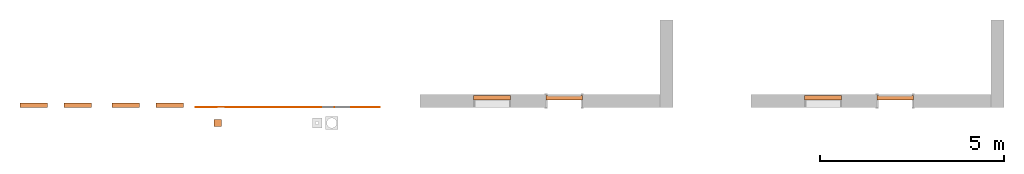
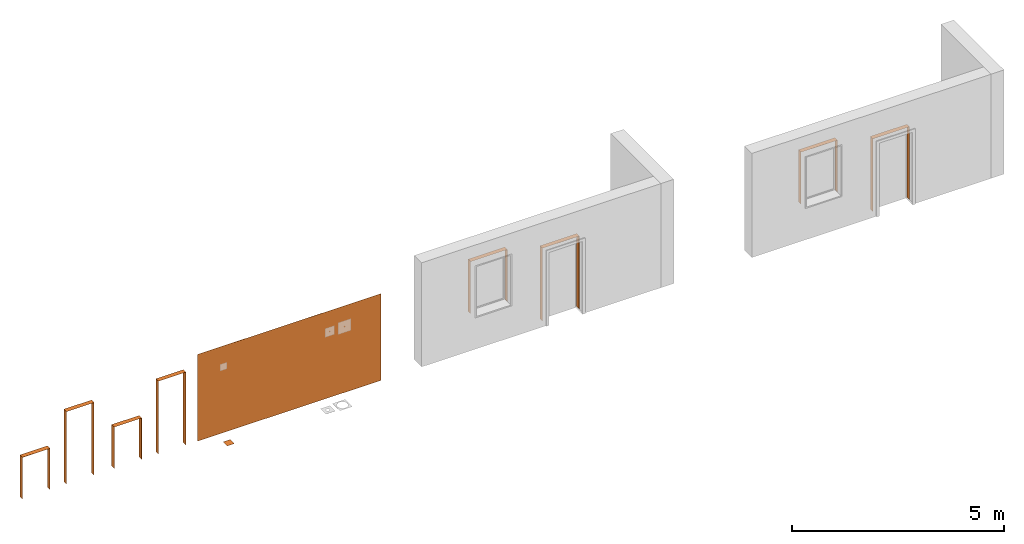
# One storey, part 2 of 3: 10 proxies.
"""IFC2X3 building model written with IfcOpenShell, lengths in millimetres."""

from ifc_helpers import new_model, entity, si_unit, converted_unit, derived_unit, direction, frame, origin, origin_2d_with_axis, place, context, subcontext, project, spatial, polyline, rectangle, outline, extrude, source, transform, mapped, material, type_object, type_shapes, element, save


model = new_model("IFC2X3")

# Units and contexts
model_context = context("Model", 3, precision=0.01, world=origin(), true_north=direction((6.12303176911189e-17, 1.0)))
body_context = subcontext(model_context, "Body", "Model", "MODEL_VIEW")
ifc_project = project(units=[si_unit("LENGTHUNIT", "METRE", prefix="MILLI"), si_unit("AREAUNIT", "SQUARE_METRE"), si_unit("VOLUMEUNIT", "CUBIC_METRE"), converted_unit("PLANEANGLEUNIT", "DEGREE", entity("IfcRatioMeasure", 0.0174532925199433), si_unit("PLANEANGLEUNIT", "RADIAN"), dimensions=[0, 0, 0, 0, 0, 0, 0]), si_unit("MASSUNIT", "GRAM", prefix="KILO"), derived_unit("MASSDENSITYUNIT", [(si_unit("MASSUNIT", "GRAM", prefix="KILO"), 1), (si_unit("LENGTHUNIT", "METRE"), -3)]), si_unit("TIMEUNIT", "SECOND"), si_unit("FREQUENCYUNIT", "HERTZ"), si_unit("THERMODYNAMICTEMPERATUREUNIT", "DEGREE_CELSIUS"), derived_unit("THERMALTRANSMITTANCEUNIT", [(si_unit("MASSUNIT", "GRAM", prefix="KILO"), 1), (si_unit("THERMODYNAMICTEMPERATUREUNIT", "KELVIN"), -1), (si_unit("TIMEUNIT", "SECOND"), -3)]), derived_unit("VOLUMETRICFLOWRATEUNIT", [(si_unit("LENGTHUNIT", "METRE"), 3), (si_unit("TIMEUNIT", "SECOND"), -1)]), si_unit("ELECTRICCURRENTUNIT", "AMPERE"), si_unit("ELECTRICVOLTAGEUNIT", "VOLT"), si_unit("POWERUNIT", "WATT"), si_unit("FORCEUNIT", "NEWTON", prefix="KILO"), si_unit("ILLUMINANCEUNIT", "LUX"), si_unit("LUMINOUSFLUXUNIT", "LUMEN"), si_unit("LUMINOUSINTENSITYUNIT", "CANDELA"), derived_unit("USERDEFINED", [(si_unit("MASSUNIT", "GRAM", prefix="KILO"), -1), (si_unit("LENGTHUNIT", "METRE"), -2), (si_unit("TIMEUNIT", "SECOND"), 3), (si_unit("LUMINOUSFLUXUNIT", "LUMEN"), 1)]), derived_unit("LINEARVELOCITYUNIT", [(si_unit("LENGTHUNIT", "METRE"), 1), (si_unit("TIMEUNIT", "SECOND"), -1)]), si_unit("PRESSUREUNIT", "PASCAL"), derived_unit("USERDEFINED", [(si_unit("LENGTHUNIT", "METRE"), -2), (si_unit("MASSUNIT", "GRAM", prefix="KILO"), 1), (si_unit("TIMEUNIT", "SECOND"), -2)])], contexts=[model_context])

# Site, building, storey
site_placement = place(None, origin())
site = spatial("IfcSite", under=ifc_project, at=site_placement, Name="Default", CompositionType="ELEMENT")
building_placement = place(site_placement, origin())
building = spatial("IfcBuilding", under=site, at=building_placement, CompositionType="ELEMENT")
storey_placement = place(building_placement, origin())
storey = spatial("IfcBuildingStorey", under=building, at=storey_placement, Name="Level 1", CompositionType="ELEMENT", Elevation=0.0)

# Proxies
ifc_material_1 = material(Name="DafaExFoilLiningFoil")
building_element_proxy_type_1 = type_object("IfcBuildingElementProxyType", Name="Window Lining", PredefinedType="NOTDEFINED", material=ifc_material_1)
shared_shape_1 = source(origin(), body_context, "Body", "SweptSolid", [
    extrude(outline(polyline([(-750.250000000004, -500.0), (749.750000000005, -500.0), (749.750000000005, -499.0), (-749.250000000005, -499.0), (-749.250000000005, 499.0), (749.750000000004, 499.0), (749.750000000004, 500.0), (-750.250000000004, 500.0), (-750.250000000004, -500.0)])), frame((500.0, 0.0, 749.750000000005), z_axis=(0.0, 1.0, 0.0), x_axis=(0.0, 0.0, -1.0)), (0.0, 0.0, 1.0), 120.0),
])
type_shapes(building_element_proxy_type_1, [shared_shape_1])
proxy_1_placement = place(storey_placement, frame((738.667400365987, 14343.9384218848, 900.0), z_axis=(0.0, 0.0, 1.0), x_axis=(-1.0, 0.0, 0.0)))
element("IfcBuildingElementProxy", 1, at=proxy_1_placement, inside=storey, type_object=building_element_proxy_type_1, material=ifc_material_1, Name="Dafa_ExFoil_Lining_Foil 2 x double adhesive-WallBased:Window Lining", ObjectType="Dafa_ExFoil_Lining_Foil 2 x double adhesive-WallBased:Window Lining", context=body_context, shape_type="MappedRepresentation", body=[
    mapped(shared_shape_1, transform((0.0, 0.0, 0.0), scale=1.0)),
])
ifc_material_2 = material(Name="DafaExFoil")
building_element_proxy_type_2 = type_object("IfcBuildingElementProxyType", Name="Standard", PredefinedType="NOTDEFINED", material=ifc_material_2)
shared_shape_2 = source(origin(), body_context, "Body", "SweptSolid", [
    extrude(rectangle(XDim=5000.0, YDim=1.00000000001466, at=origin_2d_with_axis()), origin(), (0.0, 0.0, 1.0), 2500.0),
])
type_shapes(building_element_proxy_type_2, [shared_shape_2])
proxy_2_placement = place(storey_placement, frame((-5318.83259963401, 14018.9384218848, 0.0)))
element("IfcBuildingElementProxy", 2, at=proxy_2_placement, inside=storey, type_object=building_element_proxy_type_2, material=ifc_material_2, Name="Dafa_ExFoil:Standard", ObjectType="Dafa_ExFoil:Standard", context=body_context, shape_type="MappedRepresentation", body=[
    mapped(shared_shape_2, transform((0.0, 0.0, 0.0), scale=1.0)),
])
building_element_proxy_type_3 = type_object("IfcBuildingElementProxyType", Name="Door Lining", PredefinedType="NOTDEFINED", material=ifc_material_1)
shared_shape_3 = source(origin(), body_context, "Body", "SweptSolid", [
    extrude(outline(polyline([(-1050.25, -500.0), (1049.75, -500.0), (1049.75, -499.0), (-1049.25, -499.0), (-1049.25, 499.0), (1049.75, 499.0), (1049.75, 500.0), (-1050.25, 500.0), (-1050.25, -500.0)])), frame((500.0, 0.0, 1049.75), z_axis=(0.0, 1.0, 0.0), x_axis=(0.0, 0.0, -1.0)), (0.0, 0.0, 1.0), 120.0),
])
type_shapes(building_element_proxy_type_3, [shared_shape_3])
proxy_3_placement = place(storey_placement, frame((2698.66740036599, 14343.9384218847, 0.708015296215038), z_axis=(0.0, 0.0, 1.0), x_axis=(-1.0, 0.0, 0.0)))
element("IfcBuildingElementProxy", 3, at=proxy_3_placement, inside=storey, type_object=building_element_proxy_type_3, material=ifc_material_1, Name="Dafa_ExFoil_Lining_Foil 2 x double adhesive-WallBased:Door Lining", ObjectType="Dafa_ExFoil_Lining_Foil 2 x double adhesive-WallBased:Door Lining", context=body_context, shape_type="MappedRepresentation", body=[
    mapped(shared_shape_3, transform((0.0, 0.0, 0.0), scale=1.0)),
])
ifc_material_3 = material(Name="DAFA Hitack")
building_element_proxy_type_4 = type_object("IfcBuildingElementProxyType", Name="Type 195", PredefinedType="NOTDEFINED", material=ifc_material_3)
shared_shape_4 = source(origin(), body_context, "Body", "SweptSolid", [
    extrude(rectangle(XDim=195.0, YDim=194.999999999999, at=origin_2d_with_axis()), frame((0.0, 0.0, 0.0), z_axis=(0.0, 0.0, 1.0), x_axis=(-1.0, 0.0, 0.0)), (0.0, 0.0, 1.0), 1.2),
])
type_shapes(building_element_proxy_type_4, [shared_shape_4])
proxy_4_placement = place(storey_placement, frame((-7218.83259963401, 13593.9384218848, 0.0)))
element("IfcBuildingElementProxy", 4, at=proxy_4_placement, inside=storey, type_object=building_element_proxy_type_4, material=ifc_material_3, Name="Dafa_Hi-tack_Cable_Collar:Type 195", ObjectType="Dafa_Hi-tack_Cable_Collar:Type 195", context=body_context, shape_type="MappedRepresentation", body=[
    mapped(shared_shape_4, transform((0.0, 0.0, 0.0), scale=1.0)),
])
building_element_proxy_type_5 = type_object("IfcBuildingElementProxyType", Name="Door Lining", PredefinedType="NOTDEFINED", material=ifc_material_1)
shared_shape_5 = source(origin(), body_context, "Body", "SweptSolid", [
    extrude(outline(polyline([(-1050.25000000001, -375.0), (1049.75, -375.0), (1049.75, -374.0), (-1049.25, -374.0), (-1049.25, 374.0), (1049.75, 374.0), (1049.75, 375.0), (-1050.25000000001, 375.0), (-1050.25000000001, -375.0)])), frame((0.0, 0.0, 1049.75), z_axis=(0.0, 1.0, 0.0), x_axis=(0.0, 0.0, -1.0)), (0.0, 0.0, 1.0), 120.0),
])
type_shapes(building_element_proxy_type_5, [shared_shape_5])
proxy_5_placement = place(storey_placement, frame((-8518.83259963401, 14018.9384218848, 0.0)))
element("IfcBuildingElementProxy", 5, at=proxy_5_placement, inside=storey, type_object=building_element_proxy_type_5, material=ifc_material_1, Name="Dafa_ExFoil_Lining_Foil 2 x double adhesive:Door Lining", ObjectType="Dafa_ExFoil_Lining_Foil 2 x double adhesive:Door Lining", context=body_context, shape_type="MappedRepresentation", body=[
    mapped(shared_shape_5, transform((0.0, 0.0, 0.0), scale=1.0)),
])
building_element_proxy_type_6 = type_object("IfcBuildingElementProxyType", Name="Window Lining", PredefinedType="NOTDEFINED", material=ifc_material_1)
shared_shape_6 = source(origin(), body_context, "Body", "SweptSolid", [
    extrude(outline(polyline([(-600.250000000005, -375.0), (599.750000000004, -375.0), (599.750000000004, -374.0), (-599.250000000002, -374.0), (-599.250000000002, 374.0), (599.750000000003, 374.0), (599.750000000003, 375.0), (-600.250000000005, 375.0), (-600.250000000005, -375.0)])), frame((0.0, 0.0, 599.750000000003), z_axis=(0.0, 1.0, 0.0), x_axis=(0.0, 0.0, -1.0)), (0.0, 0.0, 1.0), 120.0),
])
type_shapes(building_element_proxy_type_6, [shared_shape_6])
proxy_6_placement = place(storey_placement, frame((-9718.83259963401, 14018.9384218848, 0.0)))
element("IfcBuildingElementProxy", 6, at=proxy_6_placement, inside=storey, type_object=building_element_proxy_type_6, material=ifc_material_1, Name="Dafa_ExFoil_Lining_Foil 2 x double adhesive:Window Lining", ObjectType="Dafa_ExFoil_Lining_Foil 2 x double adhesive:Window Lining", context=body_context, shape_type="MappedRepresentation", body=[
    mapped(shared_shape_6, transform((0.0, 0.0, 0.0), scale=1.0)),
])
building_element_proxy_type_7 = type_object("IfcBuildingElementProxyType", Name="Door Lining", PredefinedType="NOTDEFINED", material=ifc_material_1)
shared_shape_7 = source(origin(), body_context, "Body", "SweptSolid", [
    extrude(outline(polyline([(-1050.25000000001, -375.0), (1049.75, -375.0), (1049.75, -374.0), (-1049.25, -374.0), (-1049.25, 374.0), (1049.75, 374.0), (1049.75, 375.0), (-1050.25000000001, 375.0), (-1050.25000000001, -375.0)])), frame((0.0, 0.0, 1049.75), z_axis=(0.0, 1.0, 0.0), x_axis=(0.0, 0.0, -1.0)), (0.0, 0.0, 1.0), 120.0),
])
type_shapes(building_element_proxy_type_7, [shared_shape_7])
proxy_7_placement = place(storey_placement, frame((-11018.832599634, 14018.9384218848, 0.0)))
element("IfcBuildingElementProxy", 7, at=proxy_7_placement, inside=storey, type_object=building_element_proxy_type_7, material=ifc_material_1, Name="Dafa_ExFoil_Lining_Foil double adhesive and butyl rubber:Door Lining", ObjectType="Dafa_ExFoil_Lining_Foil double adhesive and butyl rubber:Door Lining", context=body_context, shape_type="MappedRepresentation", body=[
    mapped(shared_shape_7, transform((0.0, 0.0, 0.0), scale=1.0)),
])
building_element_proxy_type_8 = type_object("IfcBuildingElementProxyType", Name="Window Lining", PredefinedType="NOTDEFINED", material=ifc_material_1)
shared_shape_8 = source(origin(), body_context, "Body", "SweptSolid", [
    extrude(outline(polyline([(-600.250000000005, -375.0), (599.750000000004, -375.0), (599.750000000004, -374.0), (-599.250000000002, -374.0), (-599.250000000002, 374.0), (599.750000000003, 374.0), (599.750000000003, 375.0), (-600.250000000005, 375.0), (-600.250000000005, -375.0)])), frame((0.0, 0.0, 599.750000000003), z_axis=(0.0, 1.0, 0.0), x_axis=(0.0, 0.0, -1.0)), (0.0, 0.0, 1.0), 120.0),
])
type_shapes(building_element_proxy_type_8, [shared_shape_8])
proxy_8_placement = place(storey_placement, frame((-12218.832599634, 14018.9384218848, 0.0)))
element("IfcBuildingElementProxy", 8, at=proxy_8_placement, inside=storey, type_object=building_element_proxy_type_8, material=ifc_material_1, Name="Dafa_ExFoil_Lining_Foil double adhesive and butyl rubber:Window Lining", ObjectType="Dafa_ExFoil_Lining_Foil double adhesive and butyl rubber:Window Lining", context=body_context, shape_type="MappedRepresentation", body=[
    mapped(shared_shape_8, transform((0.0, 0.0, 0.0), scale=1.0)),
])
building_element_proxy_type_9 = type_object("IfcBuildingElementProxyType", Name="Window Lining", PredefinedType="NOTDEFINED", material=ifc_material_1)
shared_shape_9 = source(origin(), body_context, "Body", "SweptSolid", [
    extrude(outline(polyline([(-750.250000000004, -500.0), (749.750000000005, -500.0), (749.750000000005, -499.0), (-749.250000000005, -499.0), (-749.250000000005, 499.0), (749.750000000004, 499.0), (749.750000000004, 500.0), (-750.250000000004, 500.0), (-750.250000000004, -500.0)])), frame((500.0, 0.0, 749.750000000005), z_axis=(0.0, 1.0, 0.0), x_axis=(0.0, 0.0, -1.0)), (0.0, 0.0, 1.0), 120.0),
])
type_shapes(building_element_proxy_type_9, [shared_shape_9])
proxy_9_placement = place(storey_placement, frame((9738.66740036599, 14343.9384218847, 900.0), z_axis=(0.0, 0.0, 1.0), x_axis=(-1.0, 0.0, 0.0)))
element("IfcBuildingElementProxy", 9, at=proxy_9_placement, inside=storey, type_object=building_element_proxy_type_9, material=ifc_material_1, Name="Dafa_ExFoil_Lining_Foil double adhesive and butyl rubber-WallBased:Window Lining", ObjectType="Dafa_ExFoil_Lining_Foil double adhesive and butyl rubber-WallBased:Window Lining", context=body_context, shape_type="MappedRepresentation", body=[
    mapped(shared_shape_9, transform((0.0, 0.0, 0.0), scale=1.0)),
])
building_element_proxy_type_10 = type_object("IfcBuildingElementProxyType", Name="Door Lining", PredefinedType="NOTDEFINED", material=ifc_material_1)
shared_shape_10 = source(origin(), body_context, "Body", "SweptSolid", [
    extrude(outline(polyline([(-1050.25, -500.0), (1049.75, -500.0), (1049.75, -499.0), (-1049.25, -499.0), (-1049.25, 499.0), (1049.75, 499.0), (1049.75, 500.0), (-1050.25, 500.0), (-1050.25, -500.0)])), frame((500.0, 0.0, 1049.75), z_axis=(0.0, 1.0, 0.0), x_axis=(0.0, 0.0, -1.0)), (0.0, 0.0, 1.0), 120.0),
])
type_shapes(building_element_proxy_type_10, [shared_shape_10])
proxy_10_placement = place(storey_placement, frame((11698.667400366, 14343.9384218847, 0.708015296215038), z_axis=(0.0, 0.0, 1.0), x_axis=(-1.0, 0.0, 0.0)))
element("IfcBuildingElementProxy", 10, at=proxy_10_placement, inside=storey, type_object=building_element_proxy_type_10, material=ifc_material_1, Name="Dafa_ExFoil_Lining_Foil double adhesive and butyl rubber-WallBased:Door Lining", ObjectType="Dafa_ExFoil_Lining_Foil double adhesive and butyl rubber-WallBased:Door Lining", context=body_context, shape_type="MappedRepresentation", body=[
    mapped(shared_shape_10, transform((0.0, 0.0, 0.0), scale=1.0)),
])

save(model, "model.ifc")
